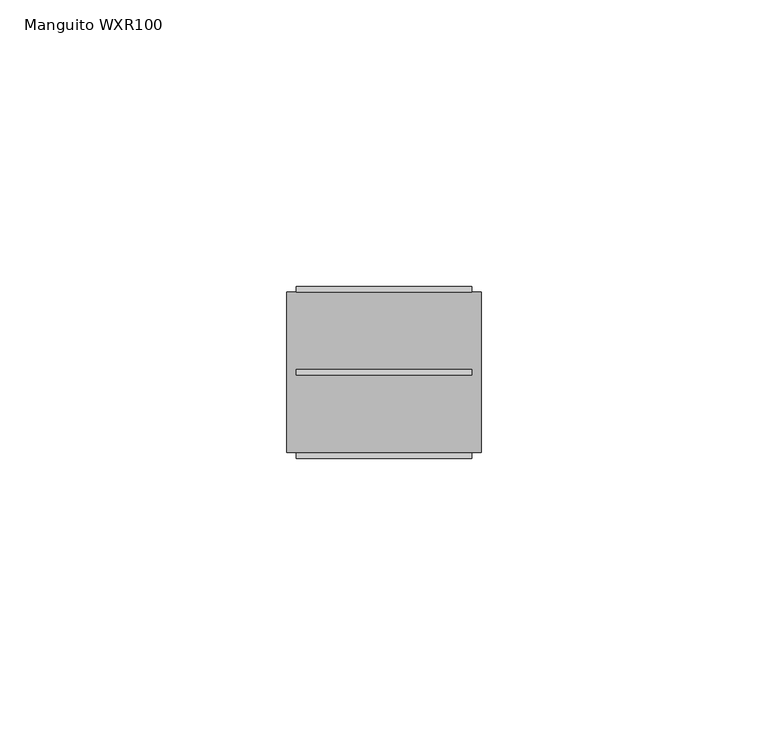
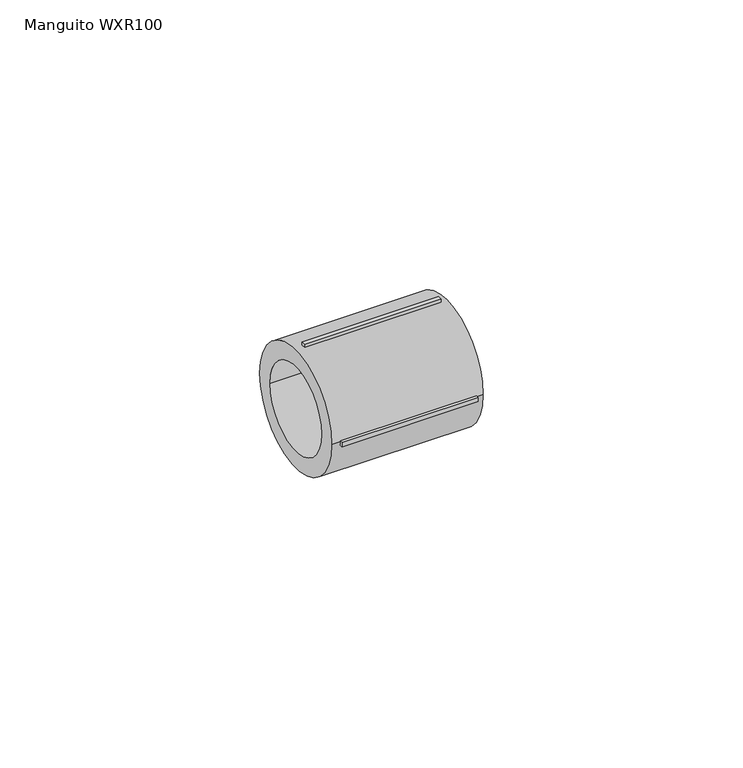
"""IFC4 building model written with IfcOpenShell, lengths in millimetres: pipe fitting geometry, EGB_VASEN_ PPR_Manguito WXR100 : Manguito WXR100."""

from ifc_helpers import new_model, si_unit, point, frame, origin, origin_2d, place, context, project, spatial, polyline, circle_curve, trimmed, segment, composite_curve, outline, extrude, source, transform, mapped, element, save


def manguito_wxr100_60d90c52(model_context):
    return source(origin(), model_context, "Body", "SweptSolid", [
        extrude(outline(composite_curve([segment(trimmed(circle_curve(origin_2d(), 14.0), [point((-14.0, 0.0))], [point((14.0, 0.0))], False, "CARTESIAN"), True, "CONTINUOUS"), segment(trimmed(circle_curve(origin_2d(), 14.0), [point((14.0, 0.0))], [point((-14.0, 0.0))], False, "CARTESIAN"), True, "CONTINUOUS")], self_intersect=False), holes=[composite_curve([segment(trimmed(circle_curve(origin_2d(), 10.0), [point((-10.0, 0.0))], [point((10.0, 0.0))], True, "CARTESIAN"), True, "CONTINUOUS"), segment(trimmed(circle_curve(origin_2d(), 10.0), [point((10.0, 0.0))], [point((-10.0, 0.0))], True, "CARTESIAN"), True, "CONTINUOUS")], self_intersect=False)]), frame((-17.0, 0.0, 0.0), z_axis=(1.0, 0.0, 0.0), x_axis=(0.0, 1.0, 0.0)), (0.0, 0.0, 1.0), 34.0),
        extrude(outline(polyline([(15.3, 0.5), (15.3, -0.5), (-15.3, -0.5), (-15.3, 0.5), (15.3, 0.5)])), frame((0.0, 0.0, 13.0), z_axis=(0.0, 0.0, 1.0), x_axis=(1.0, 0.0, 0.0)), (0.0, 0.0, 1.0), 2.0),
        extrude(outline(polyline([(15.3, 0.5), (15.3, -0.5), (-15.3, -0.5), (-15.3, 0.5), (15.3, 0.5)])), frame((0.0, 0.0, -15.0), z_axis=(0.0, 0.0, 1.0), x_axis=(1.0, 0.0, 0.0)), (0.0, 0.0, 1.0), 2.0),
        extrude(outline(polyline([(15.3, 15.0), (15.3, 13.0), (-15.3, 13.0), (-15.3, 15.0), (15.3, 15.0)])), frame((0.0, 0.0, -0.5), z_axis=(0.0, 0.0, 1.0), x_axis=(1.0, 0.0, 0.0)), (0.0, 0.0, 1.0), 1.0),
        extrude(outline(polyline([(15.3, -13.0), (15.3, -15.0), (-15.3, -15.0), (-15.3, -13.0), (15.3, -13.0)])), frame((0.0, 0.0, -0.5), z_axis=(0.0, 0.0, 1.0), x_axis=(1.0, 0.0, 0.0)), (0.0, 0.0, 1.0), 1.0),
    ])


if __name__ == "__main__":
    model = new_model("IFC4")
    model_context = context("Model", 3, world=origin())
    ifc_project = project(units=[si_unit("LENGTHUNIT", "METRE", prefix="MILLI")], contexts=[model_context])
    site = spatial("IfcSite", under=ifc_project)
    building = spatial("IfcBuilding", under=site)
    placement = place(None, origin())
    manguito_wxr100_shape = manguito_wxr100_60d90c52(model_context)
    element("IfcPipeFitting", 1, ObjectType="EGB_VASEN_ PPR_Manguito WXR100 : Manguito WXR100", at=placement, inside=building, context=model_context, shape_type="MappedRepresentation", body=[
        mapped(manguito_wxr100_shape, transform((0.0, 0.0, 0.0), x_axis=(1.0, 0.0, 0.0), y_axis=(0.0, 1.0, 0.0), z_axis=(0.0, 0.0, 1.0))),
    ])
    save(model, "model.ifc")
